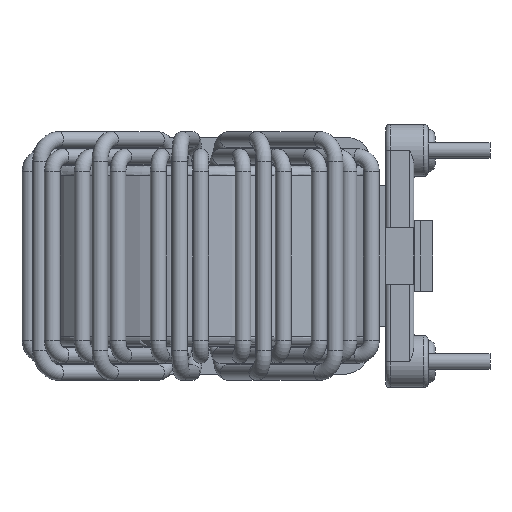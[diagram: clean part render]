
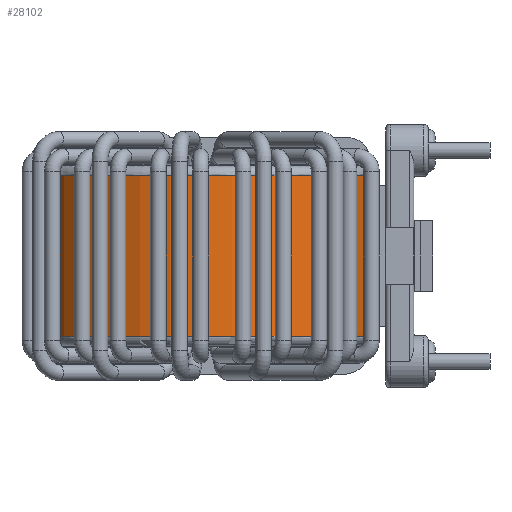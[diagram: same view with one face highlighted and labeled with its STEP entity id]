
A CAD part, left-side view. The second image highlights one B-rep face of the part: STEP entity #28102.
In plain terms, the highlighted cylindrical face has radius 12.7 mm (diameter 25.4 mm), a full revolution.
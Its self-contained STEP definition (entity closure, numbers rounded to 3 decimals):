
#1378=FACE_BOUND('',#5322,.T.);
#1379=FACE_BOUND('',#5323,.T.);
#3762=FACE_OUTER_BOUND('',#5321,.T.);
#5321=EDGE_LOOP('',(#24791,#24792,#24793,#24794,#24795));
#5322=EDGE_LOOP('',(#24796,#24797,#24798,#24799));
#5323=EDGE_LOOP('',(#24800,#24801,#24802,#24803));
#7293=LINE('',#51857,#9264);
#7300=LINE('',#51872,#9271);
#7307=LINE('',#51887,#9278);
#7312=LINE('',#51898,#9283);
#7313=LINE('',#51907,#9284);
#9264=VECTOR('',#36294,10.);
#9271=VECTOR('',#36309,10.);
#9278=VECTOR('',#36324,10.);
#9283=VECTOR('',#36337,10.);
#9284=VECTOR('',#36348,12.7);
#10310=CIRCLE('',#30223,12.7);
#10312=CIRCLE('',#30225,12.7);
#10313=CIRCLE('',#30227,12.7);
#10314=CIRCLE('',#30228,12.7);
#10315=CIRCLE('',#30229,12.7);
#10316=CIRCLE('',#30230,12.7);
#10317=CIRCLE('',#30231,12.7);
#12918=VERTEX_POINT('',#51850);
#12921=VERTEX_POINT('',#51855);
#12922=VERTEX_POINT('',#51865);
#12925=VERTEX_POINT('',#51870);
#12926=VERTEX_POINT('',#51880);
#12929=VERTEX_POINT('',#51885);
#12930=VERTEX_POINT('',#51894);
#12931=VERTEX_POINT('',#51896);
#12932=VERTEX_POINT('',#51900);
#12933=VERTEX_POINT('',#51901);
#12934=VERTEX_POINT('',#51906);
#16886=EDGE_CURVE('',#12921,#12918,#7293,.T.);
#16895=EDGE_CURVE('',#12925,#12922,#7300,.T.);
#16904=EDGE_CURVE('',#12929,#12926,#7307,.T.);
#16911=EDGE_CURVE('',#12931,#12930,#7312,.T.);
#16912=EDGE_CURVE('',#12932,#12933,#10310,.T.);
#16914=EDGE_CURVE('',#12933,#12932,#10312,.T.);
#16915=EDGE_CURVE('',#12932,#12934,#7313,.T.);
#16916=EDGE_CURVE('',#12934,#12934,#10313,.T.);
#16917=EDGE_CURVE('',#12921,#12926,#10314,.T.);
#16918=EDGE_CURVE('',#12929,#12918,#10315,.T.);
#16919=EDGE_CURVE('',#12925,#12930,#10316,.T.);
#16920=EDGE_CURVE('',#12931,#12922,#10317,.T.);
#24791=ORIENTED_EDGE('',*,*,#16912,.F.);
#24792=ORIENTED_EDGE('',*,*,#16915,.T.);
#24793=ORIENTED_EDGE('',*,*,#16916,.F.);
#24794=ORIENTED_EDGE('',*,*,#16915,.F.);
#24795=ORIENTED_EDGE('',*,*,#16914,.F.);
#24796=ORIENTED_EDGE('',*,*,#16917,.T.);
#24797=ORIENTED_EDGE('',*,*,#16904,.F.);
#24798=ORIENTED_EDGE('',*,*,#16918,.T.);
#24799=ORIENTED_EDGE('',*,*,#16886,.F.);
#24800=ORIENTED_EDGE('',*,*,#16919,.T.);
#24801=ORIENTED_EDGE('',*,*,#16911,.F.);
#24802=ORIENTED_EDGE('',*,*,#16920,.T.);
#24803=ORIENTED_EDGE('',*,*,#16895,.F.);
#25205=CYLINDRICAL_SURFACE('',#30226,12.7);
#28102=ADVANCED_FACE('',(#3762,#1378,#1379),#25205,.T.);
#30223=AXIS2_PLACEMENT_3D('',#51902,#36340,#36341);
#30225=AXIS2_PLACEMENT_3D('',#51904,#36344,#36345);
#30226=AXIS2_PLACEMENT_3D('',#51905,#36346,#36347);
#30227=AXIS2_PLACEMENT_3D('',#51908,#36349,#36350);
#30228=AXIS2_PLACEMENT_3D('',#51909,#36351,#36352);
#30229=AXIS2_PLACEMENT_3D('',#51910,#36353,#36354);
#30230=AXIS2_PLACEMENT_3D('',#51911,#36355,#36356);
#30231=AXIS2_PLACEMENT_3D('',#51912,#36357,#36358);
#36294=DIRECTION('',(0.,0.,-1.));
#36309=DIRECTION('',(0.,0.,1.));
#36324=DIRECTION('',(0.,0.,1.));
#36337=DIRECTION('',(0.,0.,-1.));
#36340=DIRECTION('center_axis',(0.,0.,
1.));
#36341=DIRECTION('ref_axis',(1.,0.,0.));
#36344=DIRECTION('center_axis',(0.,0.,
1.));
#36345=DIRECTION('ref_axis',(1.,0.,0.));
#36346=DIRECTION('center_axis',(0.,0.,
1.));
#36347=DIRECTION('ref_axis',(1.,0.,0.));
#36348=DIRECTION('',(0.,0.,-1.));
#36349=DIRECTION('center_axis',(0.,0.,
-1.));
#36350=DIRECTION('ref_axis',(1.,0.,0.));
#36351=DIRECTION('center_axis',(0.,0.,
1.));
#36352=DIRECTION('ref_axis',(1.,0.,0.));
#36353=DIRECTION('center_axis',(0.,0.,
-1.));
#36354=DIRECTION('ref_axis',(1.,0.,0.));
#36355=DIRECTION('center_axis',(0.,0.,
-1.));
#36356=DIRECTION('ref_axis',(1.,0.,0.));
#36357=DIRECTION('center_axis',(0.,0.,
1.));
#36358=DIRECTION('ref_axis',(1.,0.,0.));
#51850=CARTESIAN_POINT('',(2.886,2.782,0.4));
#51855=CARTESIAN_POINT('',(2.886,2.782,10.4));
#51857=CARTESIAN_POINT('',(2.886,2.782,0.2));
#51865=CARTESIAN_POINT('',(-2.886,2.782,10.4));
#51870=CARTESIAN_POINT('',(-2.886,2.782,0.4));
#51872=CARTESIAN_POINT('',(-2.886,2.782,0.2));
#51880=CARTESIAN_POINT('',(4.811,3.396,10.4));
#51885=CARTESIAN_POINT('',(4.811,3.396,0.4));
#51887=CARTESIAN_POINT('',(4.811,3.396,0.2));
#51894=CARTESIAN_POINT('',(-4.811,3.396,0.4));
#51896=CARTESIAN_POINT('',(-4.811,3.396,10.4));
#51898=CARTESIAN_POINT('',(-4.811,3.396,0.2));
#51900=CARTESIAN_POINT('',(-12.7,15.15,11.1));
#51901=CARTESIAN_POINT('',(12.7,15.15,11.1));
#51902=CARTESIAN_POINT('Origin',(0.,15.15,11.1));
#51904=CARTESIAN_POINT('Origin',(0.,15.15,11.1));
#51905=CARTESIAN_POINT('Origin',(0.,15.15,0.2));
#51906=CARTESIAN_POINT('',(-12.7,15.15,-0.3));
#51907=CARTESIAN_POINT('',(-12.7,15.15,0.2));
#51908=CARTESIAN_POINT('Origin',(0.,15.15,-0.3));
#51909=CARTESIAN_POINT('Origin',(0.,15.15,10.4));
#51910=CARTESIAN_POINT('Origin',(0.,15.15,0.4));
#51911=CARTESIAN_POINT('Origin',(0.,15.15,0.4));
#51912=CARTESIAN_POINT('Origin',(0.,15.15,10.4));
